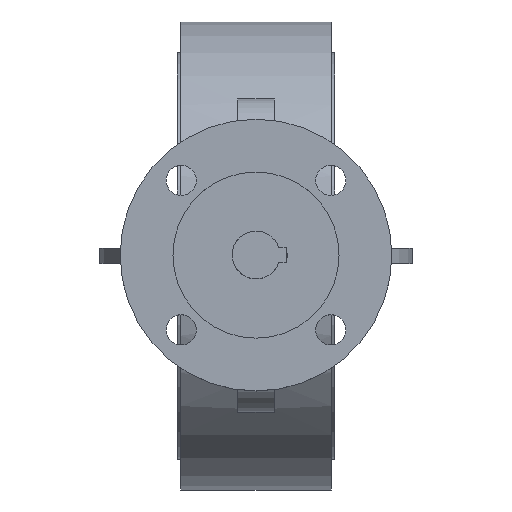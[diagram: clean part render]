
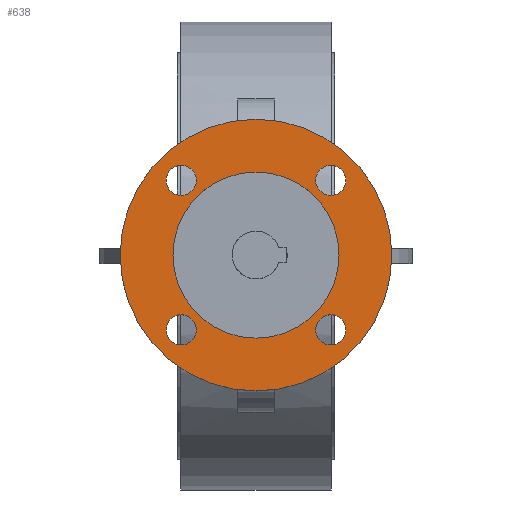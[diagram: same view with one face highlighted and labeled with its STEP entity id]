
A CAD part, top view. The second image highlights one B-rep face of the part: STEP entity #638.
In plain terms, the highlighted planar face has unit normal (0, 0, 1).
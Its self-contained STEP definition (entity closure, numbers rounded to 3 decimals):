
#638=ADVANCED_FACE('',(#1405,#1407,#1409,#1411,#1413,#1415),#1417,.T.);
#1405=FACE_BOUND('',#1406,.T.);
#1406=EDGE_LOOP('',(#1920));
#1407=FACE_BOUND('',#1408,.T.);
#1408=EDGE_LOOP('',(#1921));
#1409=FACE_BOUND('',#1410,.T.);
#1410=EDGE_LOOP('',(#1922));
#1411=FACE_BOUND('',#1412,.T.);
#1412=EDGE_LOOP('',(#1923));
#1413=FACE_BOUND('',#1414,.T.);
#1414=EDGE_LOOP('',(#1924));
#1415=FACE_BOUND('',#1416,.T.);
#1416=EDGE_LOOP('',(#1925));
#1417=PLANE('',#1418);
#1418=AXIS2_PLACEMENT_3D('',#1419,#1420,#1421);
#1419=CARTESIAN_POINT('',(0.,0.,168.));
#1420=DIRECTION('',(0.,0.,1.));
#1421=DIRECTION('',(0.,1.,0.));
#1920=ORIENTED_EDGE('',*,*,#2176,.F.);
#1921=ORIENTED_EDGE('',*,*,#2177,.T.);
#1922=ORIENTED_EDGE('',*,*,#2178,.T.);
#1923=ORIENTED_EDGE('',*,*,#2179,.T.);
#1924=ORIENTED_EDGE('',*,*,#2195,.T.);
#1925=ORIENTED_EDGE('',*,*,#2180,.T.);
#2176=EDGE_CURVE('',#2493,#2493,#2494,.T.);
#2177=EDGE_CURVE('',#2495,#2495,#2496,.F.);
#2178=EDGE_CURVE('',#2497,#2497,#2498,.F.);
#2179=EDGE_CURVE('',#2499,#2499,#2500,.F.);
#2180=EDGE_CURVE('',#2501,#2501,#2502,.F.);
#2195=EDGE_CURVE('',#2531,#2531,#2532,.T.);
#2493=VERTEX_POINT('',#4295);
#2494=CIRCLE('',#4296,45.);
#2495=VERTEX_POINT('',#4300);
#2496=CIRCLE('',#4301,5.);
#2497=VERTEX_POINT('',#4305);
#2498=CIRCLE('',#4306,5.);
#2499=VERTEX_POINT('',#4310);
#2500=CIRCLE('',#4311,5.);
#2501=VERTEX_POINT('',#4315);
#2502=CIRCLE('',#4316,5.);
#2531=VERTEX_POINT('',#4383);
#2532=CIRCLE('',#4384,27.5);
#4295=CARTESIAN_POINT('',(0.,45.,168.));
#4296=AXIS2_PLACEMENT_3D('',#4297,#4298,#4299);
#4297=CARTESIAN_POINT('',(0.,0.,168.));
#4298=DIRECTION('',(0.,0.,-1.));
#4299=DIRECTION('',(0.,1.,0.));
#4300=CARTESIAN_POINT('',(-19.749,-24.749,168.));
#4301=AXIS2_PLACEMENT_3D('',#4302,#4303,#4304);
#4302=CARTESIAN_POINT('',(-24.749,-24.749,168.));
#4303=DIRECTION('',(0.,0.,1.));
#4304=DIRECTION('',(1.,0.,0.));
#4305=CARTESIAN_POINT('',(-24.749,19.749,168.));
#4306=AXIS2_PLACEMENT_3D('',#4307,#4308,#4309);
#4307=CARTESIAN_POINT('',(-24.749,24.749,168.));
#4308=DIRECTION('',(0.,0.,1.));
#4309=DIRECTION('',(0.,-1.,0.));
#4310=CARTESIAN_POINT('',(19.749,24.749,168.));
#4311=AXIS2_PLACEMENT_3D('',#4312,#4313,#4314);
#4312=CARTESIAN_POINT('',(24.749,24.749,168.));
#4313=DIRECTION('',(0.,0.,1.));
#4314=DIRECTION('',(-1.,0.,0.));
#4315=CARTESIAN_POINT('',(24.749,-19.749,168.));
#4316=AXIS2_PLACEMENT_3D('',#4317,#4318,#4319);
#4317=CARTESIAN_POINT('',(24.749,-24.749,168.));
#4318=DIRECTION('',(0.,0.,1.));
#4319=DIRECTION('',(0.,1.,0.));
#4383=CARTESIAN_POINT('',(0.,27.5,168.));
#4384=AXIS2_PLACEMENT_3D('',#4385,#4386,#4387);
#4385=CARTESIAN_POINT('',(0.,0.,168.));
#4386=DIRECTION('',(0.,0.,-1.));
#4387=DIRECTION('',(0.,1.,0.));
